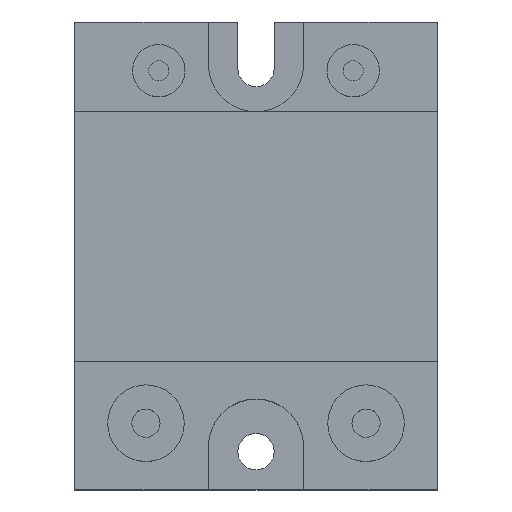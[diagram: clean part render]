
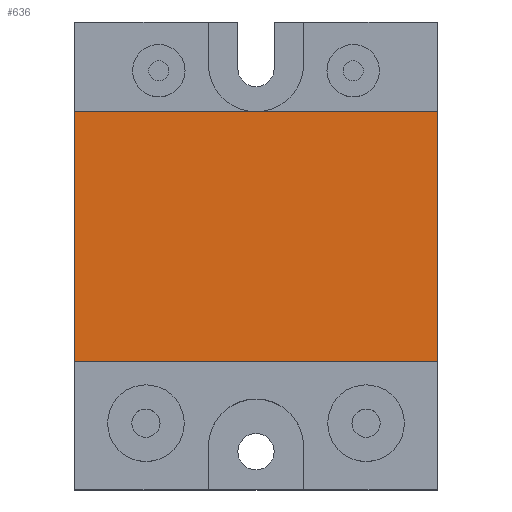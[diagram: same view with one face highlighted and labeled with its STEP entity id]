
A CAD part, top view. The second image highlights one B-rep face of the part: STEP entity #636.
In plain terms, the highlighted planar face has unit normal (0, 0, 1).
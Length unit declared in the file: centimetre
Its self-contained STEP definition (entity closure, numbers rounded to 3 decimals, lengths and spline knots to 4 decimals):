
#224=VERTEX_POINT('',#3370);
#225=VERTEX_POINT('',#3371);
#229=VERTEX_POINT('',#3381);
#230=VERTEX_POINT('',#3382);
#283=EDGE_CURVE('',#224,#225,#1586,.T.);
#288=EDGE_CURVE('',#229,#230,#1591,.T.);
#291=EDGE_CURVE('',#230,#224,#1594,.T.);
#292=EDGE_CURVE('',#225,#229,#1595,.T.);
#386=ORIENTED_EDGE('',*,*,#283,.F.);
#387=ORIENTED_EDGE('',*,*,#291,.F.);
#388=ORIENTED_EDGE('',*,*,#288,.F.);
#389=ORIENTED_EDGE('',*,*,#292,.F.);
#532=EDGE_LOOP('',(#386,#387,#388,#389));
#591=FACE_BOUND('',#532,.T.);
#636=ADVANCED_FACE('',(#591),#2581,.T.);
#1586=LINE('',#3369,#2513);
#1591=LINE('',#3380,#2518);
#1594=LINE('',#3386,#2521);
#1595=LINE('',#3387,#2522);
#2356=AXIS2_PLACEMENT_3D('',#3385,#2892,$);
#2513=VECTOR('',#2883,1.);
#2518=VECTOR('',#2889,1.);
#2521=VECTOR('',#2893,1.);
#2522=VECTOR('',#2894,1.);
#2581=PLANE('',#2356);
#2883=DIRECTION('',(1.,0.,0.));
#2889=DIRECTION('',(-1.,0.,0.));
#2892=DIRECTION('',(0.,0.,1.));
#2893=DIRECTION('',(0.,1.,0.));
#2894=DIRECTION('',(0.,-1.,0.));
#3369=CARTESIAN_POINT('',(0.,4.6875,2.08));
#3370=CARTESIAN_POINT('',(-4.5,4.6875,2.08));
#3371=CARTESIAN_POINT('',(0.,4.6875,2.08));
#3380=CARTESIAN_POINT('',(-4.5,1.5875,2.08));
#3381=CARTESIAN_POINT('',(0.,1.5875,2.08));
#3382=CARTESIAN_POINT('',(-4.5,1.5875,2.08));
#3385=CARTESIAN_POINT('',(-2.25,3.1375,2.08));
#3386=CARTESIAN_POINT('',(-4.5,4.6875,2.08));
#3387=CARTESIAN_POINT('',(0.,1.5875,2.08));
